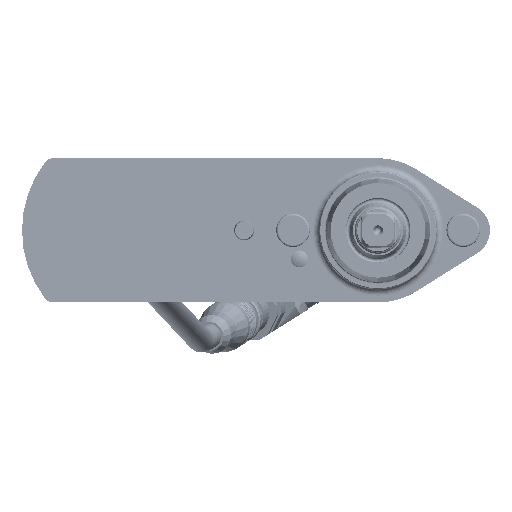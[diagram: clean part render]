
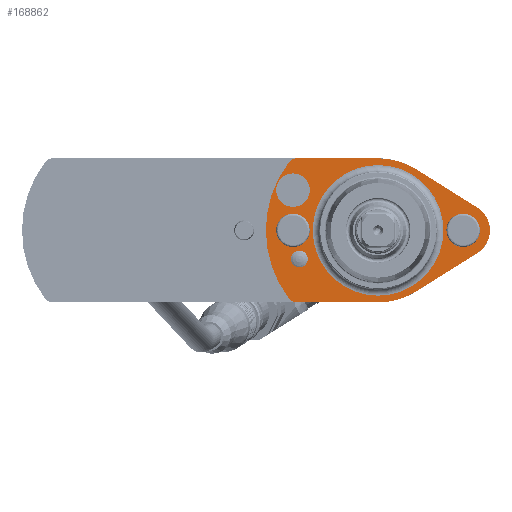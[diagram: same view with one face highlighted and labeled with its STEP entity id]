
A CAD part, left-side view. The second image highlights one B-rep face of the part: STEP entity #168862.
In plain terms, the highlighted planar face has unit normal (-1, 0, 0) as drawn and (0, 1, 0) by its records, which use the part's own axes.
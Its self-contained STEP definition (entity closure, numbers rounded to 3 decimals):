
#165019=CARTESIAN_POINT('',(18.5,10.,-24.249));
#165020=DIRECTION('',(0.,1.,0.));
#165021=DIRECTION('',(1.,0.,0.));
#165022=AXIS2_PLACEMENT_3D('',#165019,#165020,#165021);
#165024=DIRECTION('',(0.,0.,1.));
#165025=VECTOR('',#165024,24.249);
#165026=CARTESIAN_POINT('',(21.5,10.,-24.249));
#165027=LINE('',#165026,#165025);
#165028=CARTESIAN_POINT('',(0.,10.,0.));
#165029=DIRECTION('',(0.,-1.,0.));
#165030=DIRECTION('',(1.,0.,0.));
#165031=AXIS2_PLACEMENT_3D('',#165028,#165029,#165030);
#165033=DIRECTION('',(-0.531,0.,0.847));
#165034=VECTOR('',#165033,21.515);
#165035=CARTESIAN_POINT('',(18.212,10.,11.427));
#165036=LINE('',#165035,#165034);
#165037=CARTESIAN_POINT('',(0.,10.,25.4));
#165038=DIRECTION('',(0.,-1.,0.));
#165039=DIRECTION('',(0.847,0.,0.531));
#165040=AXIS2_PLACEMENT_3D('',#165037,#165038,#165039);
#165042=DIRECTION('',(-0.531,0.,-0.847));
#165043=VECTOR('',#165042,21.515);
#165044=CARTESIAN_POINT('',(-6.776,10.,29.652));
#165045=LINE('',#165044,#165043);
#165046=CARTESIAN_POINT('',(0.,10.,0.));
#165047=DIRECTION('',(0.,-1.,0.));
#165048=DIRECTION('',(-0.847,0.,0.531));
#165049=AXIS2_PLACEMENT_3D('',#165046,#165047,#165048);
#165051=DIRECTION('',(0.,0.,-1.));
#165052=VECTOR('',#165051,24.249);
#165053=CARTESIAN_POINT('',(-21.5,10.,0.));
#165054=LINE('',#165053,#165052);
#165055=CARTESIAN_POINT('',(-18.5,10.,-24.249));
#165056=DIRECTION('',(0.,1.,0.));
#165057=DIRECTION('',(-0.607,0.,-0.795));
#165058=AXIS2_PLACEMENT_3D('',#165055,#165056,#165057);
#165060=CARTESIAN_POINT('',(0.,10.,0.));
#165061=DIRECTION('',(0.,1.,0.));
#165062=DIRECTION('',(1.,0.,0.));
#165063=AXIS2_PLACEMENT_3D('',#165060,#165061,#165062);
#165065=CARTESIAN_POINT('',(0.,10.,0.));
#165066=DIRECTION('',(0.,1.,0.));
#165067=DIRECTION('',(-1.,0.,0.));
#165068=AXIS2_PLACEMENT_3D('',#165065,#165066,#165067);
#165070=CARTESIAN_POINT('',(12.,10.,-25.4));
#165071=DIRECTION('',(0.,1.,0.));
#165072=DIRECTION('',(1.,0.,0.));
#165073=AXIS2_PLACEMENT_3D('',#165070,#165071,#165072);
#165075=CARTESIAN_POINT('',(12.,10.,-25.4));
#165076=DIRECTION('',(0.,1.,0.));
#165077=DIRECTION('',(-1.,0.,0.));
#165078=AXIS2_PLACEMENT_3D('',#165075,#165076,#165077);
#165080=CARTESIAN_POINT('',(-8.551,10.,-23.492));
#165081=DIRECTION('',(0.,-1.,0.));
#165082=DIRECTION('',(-1.,0.,0.));
#165083=AXIS2_PLACEMENT_3D('',#165080,#165081,#165082);
#165085=CARTESIAN_POINT('',(-8.551,10.,-23.492));
#165086=DIRECTION('',(0.,-1.,0.));
#165087=DIRECTION('',(1.,0.,0.));
#165088=AXIS2_PLACEMENT_3D('',#165085,#165086,#165087);
#165090=CARTESIAN_POINT('',(0.,10.,-25.4));
#165091=DIRECTION('',(0.,-1.,0.));
#165092=DIRECTION('',(0.,0.,1.));
#165093=AXIS2_PLACEMENT_3D('',#165090,#165091,#165092);
#165095=CARTESIAN_POINT('',(0.,10.,-25.4));
#165096=DIRECTION('',(0.,-1.,0.));
#165097=DIRECTION('',(0.,0.,-1.));
#165098=AXIS2_PLACEMENT_3D('',#165095,#165096,#165097);
#165100=CARTESIAN_POINT('',(0.,10.,25.4));
#165101=DIRECTION('',(0.,-1.,0.));
#165102=DIRECTION('',(0.,0.,1.));
#165103=AXIS2_PLACEMENT_3D('',#165100,#165101,#165102);
#165105=CARTESIAN_POINT('',(0.,10.,25.4));
#165106=DIRECTION('',(0.,-1.,0.));
#165107=DIRECTION('',(0.,0.,-1.));
#165108=AXIS2_PLACEMENT_3D('',#165105,#165106,#165107);
#165138=CARTESIAN_POINT('',(0.,10.,0.));
#165139=DIRECTION('',(0.,1.,0.));
#165140=DIRECTION('',(0.607,0.,-0.795));
#165141=AXIS2_PLACEMENT_3D('',#165138,#165139,#165140);
#167861=CARTESIAN_POINT('',(19.5,10.,0.));
#167862=CARTESIAN_POINT('',(-19.5,10.,0.));
#167863=VERTEX_POINT('',#167861);
#167864=VERTEX_POINT('',#167862);
#167937=CARTESIAN_POINT('',(-18.212,10.,11.427));
#167938=CARTESIAN_POINT('',(-21.5,10.,0.));
#167939=VERTEX_POINT('',#167937);
#167940=VERTEX_POINT('',#167938);
#167941=CARTESIAN_POINT('',(-6.776,10.,29.652));
#167942=VERTEX_POINT('',#167941);
#167943=CARTESIAN_POINT('',(6.776,10.,29.652));
#167944=VERTEX_POINT('',#167943);
#167945=CARTESIAN_POINT('',(18.212,10.,11.427));
#167946=VERTEX_POINT('',#167945);
#167947=CARTESIAN_POINT('',(21.5,10.,0.));
#167948=VERTEX_POINT('',#167947);
#167961=CARTESIAN_POINT('',(15.5,10.,-25.4));
#167963=VERTEX_POINT('',#167961);
#167965=CARTESIAN_POINT('',(8.5,10.,-25.4));
#167967=VERTEX_POINT('',#167965);
#167973=CARTESIAN_POINT('',(21.5,10.,-24.249));
#167974=VERTEX_POINT('',#167973);
#167975=CARTESIAN_POINT('',(20.32,10.,-26.634));
#167976=VERTEX_POINT('',#167975);
#167977=CARTESIAN_POINT('',(-20.32,10.,-26.634));
#167978=CARTESIAN_POINT('',(-21.5,10.,-24.249));
#167979=VERTEX_POINT('',#167977);
#167980=VERTEX_POINT('',#167978);
#167985=CARTESIAN_POINT('',(-11.051,10.,-23.492));
#167986=CARTESIAN_POINT('',(-6.051,10.,-23.492));
#167987=VERTEX_POINT('',#167985);
#167988=VERTEX_POINT('',#167986);
#168431=CARTESIAN_POINT('',(0.,10.,-20.4));
#168432=CARTESIAN_POINT('',(0.,10.,-30.4));
#168433=VERTEX_POINT('',#168431);
#168434=VERTEX_POINT('',#168432);
#168483=CARTESIAN_POINT('',(0.,10.,30.4));
#168484=CARTESIAN_POINT('',(0.,10.,20.4));
#168485=VERTEX_POINT('',#168483);
#168486=VERTEX_POINT('',#168484);
#168808=CARTESIAN_POINT('',(0.,10.,0.));
#168809=DIRECTION('',(0.,1.,0.));
#168810=DIRECTION('',(-1.,0.,0.));
#168811=AXIS2_PLACEMENT_3D('',#168808,#168809,#168810);
#168812=PLANE('',#168811);
#168813=ORIENTED_EDGE('',*,*,#168773,.F.);
#168814=ORIENTED_EDGE('',*,*,#168789,.T.);
#168815=ORIENTED_EDGE('',*,*,#168799,.T.);
#168817=ORIENTED_EDGE('',*,*,#168816,.T.);
#168819=ORIENTED_EDGE('',*,*,#168818,.T.);
#168821=ORIENTED_EDGE('',*,*,#168820,.T.);
#168823=ORIENTED_EDGE('',*,*,#168822,.T.);
#168825=ORIENTED_EDGE('',*,*,#168824,.T.);
#168827=ORIENTED_EDGE('',*,*,#168826,.F.);
#168829=ORIENTED_EDGE('',*,*,#168828,.F.);
#168830=EDGE_LOOP('',(#168813,#168814,#168815,#168817,#168819,#168821,#168823,
#168825,#168827,#168829));
#168831=FACE_OUTER_BOUND('',#168830,.F.);
#168833=ORIENTED_EDGE('',*,*,#168832,.T.);
#168835=ORIENTED_EDGE('',*,*,#168834,.T.);
#168836=EDGE_LOOP('',(#168833,#168835));
#168837=FACE_BOUND('',#168836,.F.);
#168839=ORIENTED_EDGE('',*,*,#168838,.T.);
#168841=ORIENTED_EDGE('',*,*,#168840,.T.);
#168842=EDGE_LOOP('',(#168839,#168841));
#168843=FACE_BOUND('',#168842,.F.);
#168845=ORIENTED_EDGE('',*,*,#168844,.F.);
#168847=ORIENTED_EDGE('',*,*,#168846,.F.);
#168848=EDGE_LOOP('',(#168845,#168847));
#168849=FACE_BOUND('',#168848,.F.);
#168851=ORIENTED_EDGE('',*,*,#168850,.F.);
#168853=ORIENTED_EDGE('',*,*,#168852,.F.);
#168854=EDGE_LOOP('',(#168851,#168853));
#168855=FACE_BOUND('',#168854,.F.);
#168857=ORIENTED_EDGE('',*,*,#168856,.F.);
#168859=ORIENTED_EDGE('',*,*,#168858,.F.);
#168860=EDGE_LOOP('',(#168857,#168859));
#168861=FACE_BOUND('',#168860,.F.);
#168862=ADVANCED_FACE('',(#168831,#168837,#168843,#168849,#168855,#168861),
#168812,.T.);
#165023=CIRCLE('',#165022,3.);
#165032=CIRCLE('',#165031,21.5);
#165041=CIRCLE('',#165040,8.);
#165050=CIRCLE('',#165049,21.5);
#165059=CIRCLE('',#165058,3.);
#165064=CIRCLE('',#165063,19.5);
#165069=CIRCLE('',#165068,19.5);
#165074=CIRCLE('',#165073,3.5);
#165079=CIRCLE('',#165078,3.5);
#165084=CIRCLE('',#165083,2.5);
#165089=CIRCLE('',#165088,2.5);
#165094=CIRCLE('',#165093,5.);
#165099=CIRCLE('',#165098,5.);
#165104=CIRCLE('',#165103,5.);
#165109=CIRCLE('',#165108,5.);
#165142=CIRCLE('',#165141,33.5);
#168773=EDGE_CURVE('',#167974,#167976,#165023,.T.);
#168789=EDGE_CURVE('',#167974,#167948,#165027,.T.);
#168799=EDGE_CURVE('',#167948,#167946,#165032,.T.);
#168816=EDGE_CURVE('',#167946,#167944,#165036,.T.);
#168818=EDGE_CURVE('',#167944,#167942,#165041,.T.);
#168820=EDGE_CURVE('',#167942,#167939,#165045,.T.);
#168822=EDGE_CURVE('',#167939,#167940,#165050,.T.);
#168824=EDGE_CURVE('',#167940,#167980,#165054,.T.);
#168826=EDGE_CURVE('',#167979,#167980,#165059,.T.);
#168828=EDGE_CURVE('',#167976,#167979,#165142,.T.);
#168832=EDGE_CURVE('',#167863,#167864,#165064,.T.);
#168834=EDGE_CURVE('',#167864,#167863,#165069,.T.);
#168838=EDGE_CURVE('',#167963,#167967,#165074,.T.);
#168840=EDGE_CURVE('',#167967,#167963,#165079,.T.);
#168844=EDGE_CURVE('',#167987,#167988,#165084,.T.);
#168846=EDGE_CURVE('',#167988,#167987,#165089,.T.);
#168850=EDGE_CURVE('',#168433,#168434,#165094,.T.);
#168852=EDGE_CURVE('',#168434,#168433,#165099,.T.);
#168856=EDGE_CURVE('',#168485,#168486,#165104,.T.);
#168858=EDGE_CURVE('',#168486,#168485,#165109,.T.);
